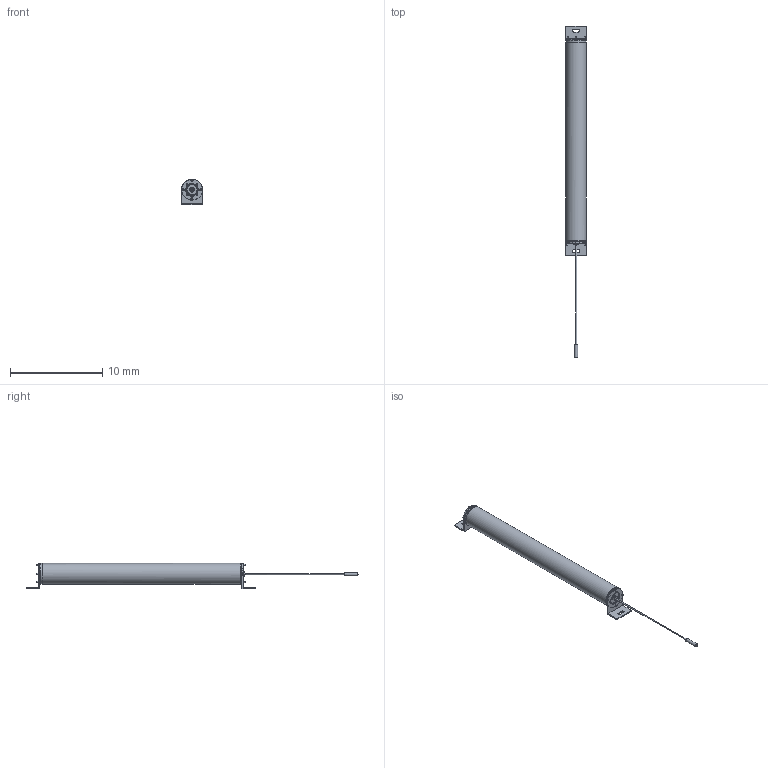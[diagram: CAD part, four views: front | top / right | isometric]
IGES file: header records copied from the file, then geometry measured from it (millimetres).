
Start section:  Autodesk DirectConnect version 7.0.27.0 ---- IGES version 5.3
Global section: file name: C:\ACADFILES\SS_PYLONS\CUSTOMER_FILES\SS-20-PYLON_3D_SMB_PT.iges; native system: Autodesk DirectConnect 7.0.27.0; preprocessor: 7.0.27.0; author: ENGINEERMAIN; organization: Unknown; date: 20150810.124431; units: millimetre
Bounding box: 2.26 x 36.01 x 2.75 mm (x, y, z)
Surface area: 682.6 mm2 (no closed solid volume)
Topology: 0 solids, 0 shells, 772 faces, 3944 edges, 3944 vertices
Faces by surface type: bspline 772
